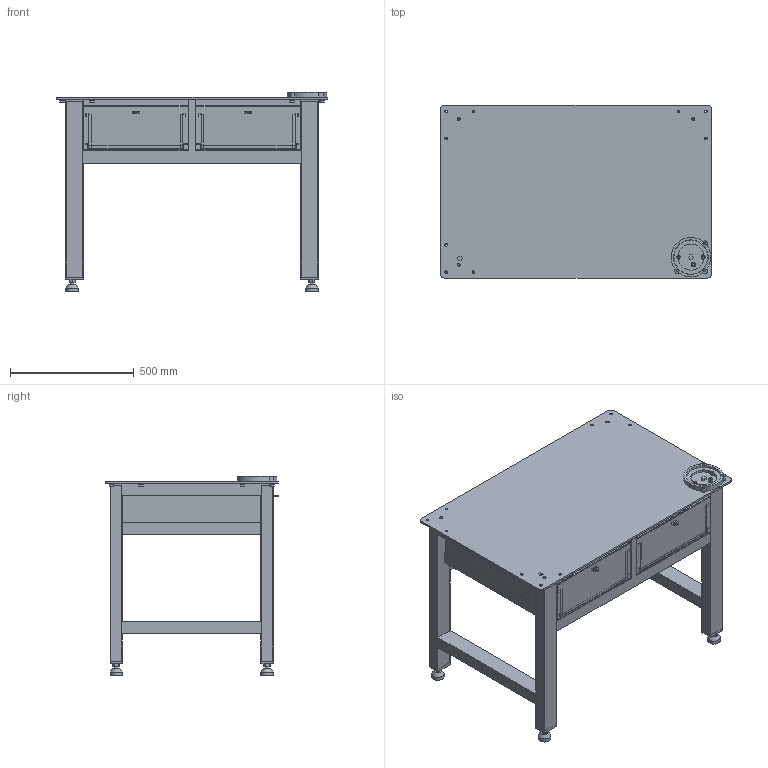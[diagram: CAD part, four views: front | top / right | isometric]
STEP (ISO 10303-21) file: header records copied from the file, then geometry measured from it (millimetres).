
FILE_DESCRIPTION(/* description */ ('Unknown'),/* implementation_level */ '2;1');
FILE_NAME(/* name */ '工作台',/* time_stamp */ '2025-12-29T14:47:12+08:00',/* author */ ('Unknown'),/* organization */ ('Unknown'),/* preprocessor_version */ 'ST-DEVELOPER v20',/* originating_system */ 'Solid Edge',/* authorisation */ 'Unknown');
FILE_SCHEMA (('AUTOMOTIVE_DESIGN {1 0 10303 214 3 1 1}'));
Length unit declared in the file: millimetre
Products named in the file (21): 馱釬盬; 馱釬盬週; 華褐M16-D59; 絳寢-隅_m; 耜; 喲; 喲歾; 絳寢-; ³éÌëb—; Öá³Ðb—; ³éÌëdÃ; 絳寢-雄_m; M10蹟; Ãæ“; Ëø“; 后g; 菜え郪M; 粣創; 蹟隊M12X2; 誥ヵ
Assembly tree (57 placements, depth 3):
  馱釬盬
    馱釬盬週
    華褐M16-D59  x4
    絳寢-隅_m  x2
    耜  x2
    喲  x2
      喲歾
      絳寢-
      ³éÌëb—
      Öá³Ðb—
      ³éÌëdÃ
      絳寢-雄_m
    M10蹟  x12
    Ãæ“
    Ëø“  x2
    后g  x2
    菜え郪M  x12
    粣創  x5
    絳寢-  x2
    蹟隊M12X2
    誥ヵ
Bounding box: 1100 x 702.5 x 808 mm (x, y, z)
Volume: 31505281 mm3; surface area: 8589307.1 mm2
Topology: 65 solids, 65 shells, 1770 faces, 4338 edges, 2724 vertices
Faces by surface type: plane 1146, cylinder 410, cone 166, bspline 32, torus 16
Full cylindrical faces by diameter (mm): 8 x13, 8.376 x12, 10 x7, 10.106 x8, 10.2 x12, 10.5 x28, 12 x1, 12.5 x4, 13.835 x4, 16 x13, 16.2 x12, 18 x1, 21 x12, 22 x9, 50 x4, 138 x1, 140 x1
Entity records: 25106 total; most frequent: CARTESIAN_POINT 4345, DIRECTION 3900, ORIENTED_EDGE 3826, EDGE_CURVE 1913, LINE 1464, VECTOR 1464, VERTEX_POINT 1247, AXIS2_PLACEMENT_3D 1218
